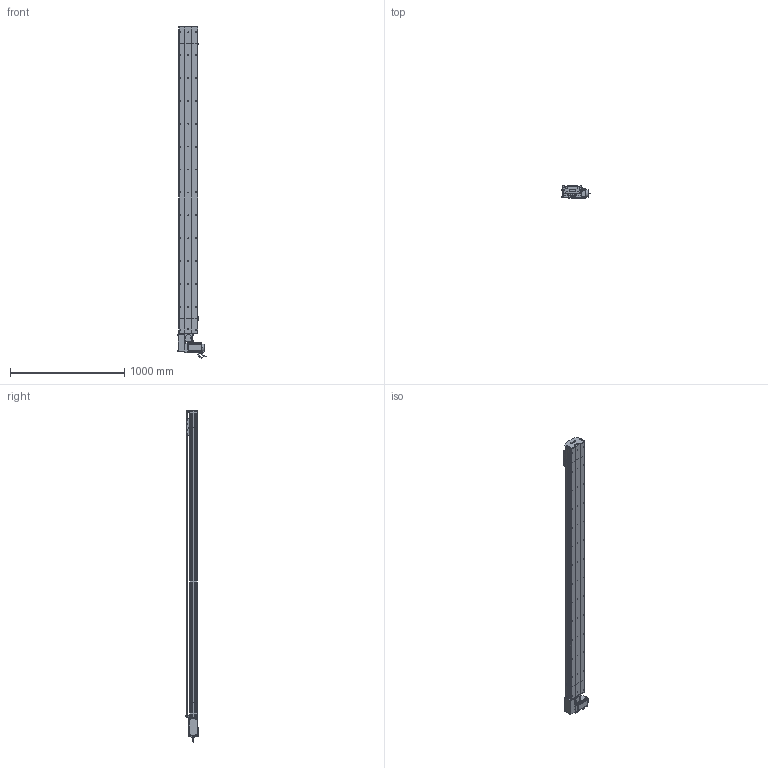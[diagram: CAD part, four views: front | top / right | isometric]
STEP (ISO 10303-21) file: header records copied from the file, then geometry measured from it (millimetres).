
FILE_DESCRIPTION (( 'STEP AP214' ), '1' );
FILE_NAME ('D17 TBH RH S2400.STEP', '2010-06-30T08:40:34', ( 'Christophe Gaillard' ), ( 'SGA' ), 'SwSTEP 2.0', 'SolidWorks 2010', '' );
FILE_SCHEMA (( 'AUTOMOTIVE_DESIGN' ));
Length unit declared in the file: millimetre
Products named in the file (40): Renvoi RH_Default; D17 TBH RH S2400; vis M5 L16_Default; course 2400 D17B_Default; Couroie+ rail D17 Course 2400 ; vis M5 L70_Default; Conecteur_Default; Conecteur2_Default; codeur 90BLDC125-640; corpl head D17 _Default; poulie head_Default; vis M5 L5_Default; cache D17_Default; corps 90BLDC125A-640; avant 90BLDC125A-640; Moteur motionking 90BLDC125A-640; couroie head D17_Default; poulie tail_Default; Arbre+rail head D17B; plaque de  bout head D17B RH_Default; couvercle D17B head_Default; Plaque racord D17_Default; Vis M5 L16-2_Default; Couroie tail D17B_Default; guide D17; Chariot D17; cache arbre D17_Default; plaque de  bout tail D17B_Default; corpl tail D17B_Default; couvercle D17B course L2400_Default; Rail D17B; chariot D17S_Default; vis M5 L8 90°_Default; tete d''axe poulie D17B; vis M5 L25_Default; vis M5 L12_Default; Tail D17B_Default; corp D17B 2400_Default; Head RH D17B_Default; couvercle D17B_Default
Assembly tree (70 placements, depth 4):
  D17 TBH RH S2400
    chariot D17S_Default
      guide D17  x2
      vis M5 L12_Default  x4
      Chariot D17
    Head RH D17B_Default
      vis M5 L5_Default  x4
      vis M5 L12_Default  x8
      Vis M5 L16-2_Default  x4
      Arbre+rail head D17B
      vis M5 L25_Default  x2
      cache arbre D17_Default
      couvercle D17B head_Default
      vis M5 L70_Default  x4
      vis M5 L16_Default  x2
      Moteur motionking 90BLDC125A-640
        Conecteur2_Default
        Conecteur_Default
        corps 90BLDC125A-640
        codeur 90BLDC125-640
        avant 90BLDC125A-640
      poulie head_Default
      plaque de  bout head D17B RH_Default
      Plaque racord D17_Default
      cache D17_Default  x2
      couroie head D17_Default
      corpl head D17 _Default
      Renvoi RH_Default
    course 2400 D17B_Default
      corp D17B 2400_Default
      Couroie+ rail D17 Course 2400 
      couvercle D17B course L2400_Default
    Tail D17B_Default
      vis M5 L25_Default  x2
      Couroie tail D17B_Default
      Rail D17B
      vis M5 L8 90°_Default  x2
      vis M5 L12_Default  x4
      tete d''axe poulie D17B
      corpl tail D17B_Default
      poulie tail_Default
      plaque de  bout tail D17B_Default
      couvercle D17B_Default
Bounding box: 245.2 x 105.65 x 2900.95 mm (x, y, z)
Volume: 16358112.7 mm3; surface area: 4730542.9 mm2
Topology: 94 solids, 94 shells, 2737 faces, 6953 edges, 4474 vertices
Faces by surface type: plane 1607, cylinder 817, bspline 136, cone 88, torus 85, sphere 4
Entity records: 86280 total; most frequent: CARTESIAN_POINT 25381, ORIENTED_EDGE 10678, DIRECTION 10124, EDGE_CURVE 5339, VECTOR 3502, LINE 3502, VERTEX_POINT 3498, AXIS2_PLACEMENT_3D 3311
